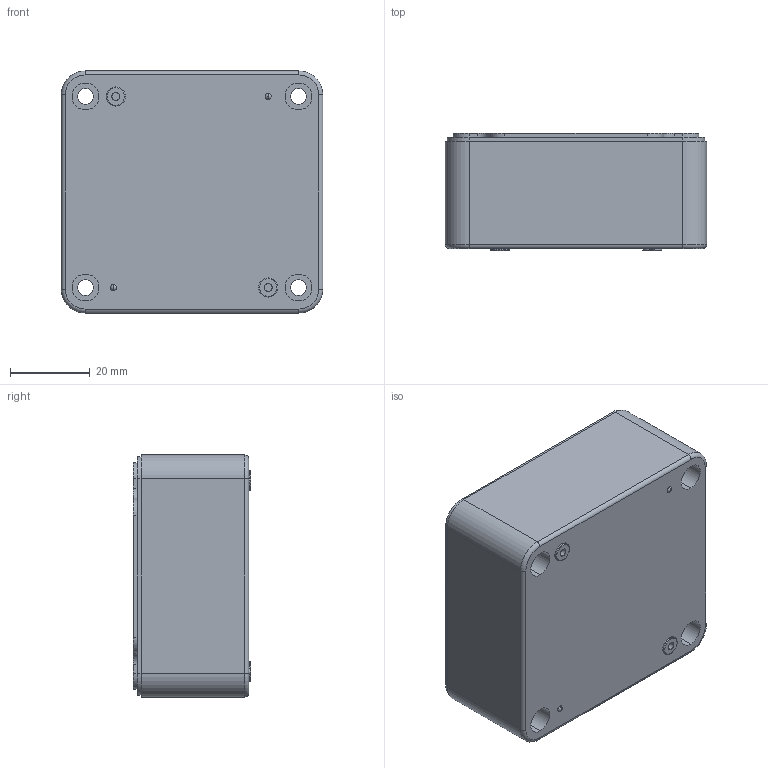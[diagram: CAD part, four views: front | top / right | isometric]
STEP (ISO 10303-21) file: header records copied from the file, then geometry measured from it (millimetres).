
FILE_DESCRIPTION (( 'STEP AP214' ), '1' );
FILE_NAME ('Cuerpo PP119.STEP', '2019-11-08T17:51:17', ( 'aaa' ), ( '' ), 'SwSTEP 2.0', 'SolidWorks 2014', '' );
FILE_SCHEMA (( 'AUTOMOTIVE_DESIGN' ));
Length unit declared in the file: millimetre
Products named in the file (1): Cuerpo PP119
Bounding box: 65.7 x 29.5 x 60.8 mm (x, y, z)
Volume: 33553.9 mm3; surface area: 23714 mm2
Topology: 1 solids, 1 shells, 211 faces, 540 edges, 356 vertices
Faces by surface type: cylinder 114, plane 85, torus 12
Entity records: 6734 total; most frequent: CARTESIAN_POINT 1396, DIRECTION 1154, ORIENTED_EDGE 1080, EDGE_CURVE 540, AXIS2_PLACEMENT_3D 434, VERTEX_POINT 356, VECTOR 286, LINE 286
